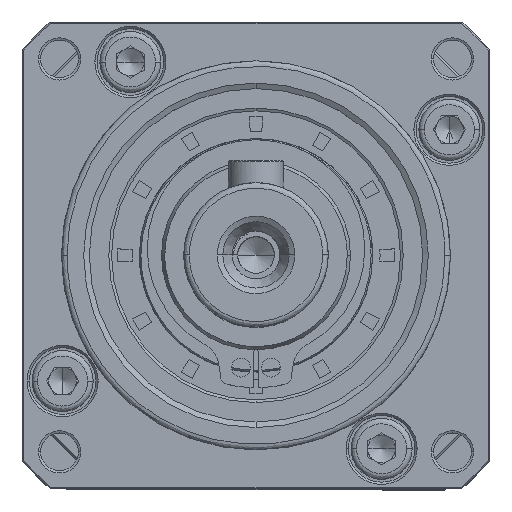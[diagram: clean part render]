
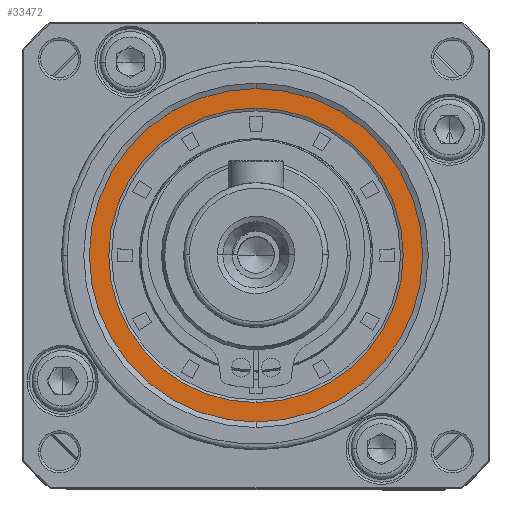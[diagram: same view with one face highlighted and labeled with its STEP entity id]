
A CAD part, top view. The second image highlights one B-rep face of the part: STEP entity #33472.
In plain terms, the highlighted planar face has unit normal (0, 0, 1).
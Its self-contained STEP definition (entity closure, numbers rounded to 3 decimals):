
#2161 = DIRECTION ( 'NONE',  ( 1., 0., 0. ) ) ;
#12160 = DIRECTION ( 'NONE',  ( 0., 0., -1. ) ) ;
#12248 = ORIENTED_EDGE ( 'NONE', *, *, #82426, .T. ) ;
#12524 = CARTESIAN_POINT ( 'NONE',  ( -18.534, 15.518, 63.002 ) ) ;
#13530 = CARTESIAN_POINT ( 'NONE',  ( -18.534, 2.268, 63.002 ) ) ;
#15847 = EDGE_CURVE ( 'NONE', #68646, #84789, #59821, .T. ) ;
#19182 = EDGE_CURVE ( 'NONE', #30770, #49644, #29335, .T. ) ;
#20208 = DIRECTION ( 'NONE',  ( 1., 0., 0. ) ) ;
#23613 = CARTESIAN_POINT ( 'NONE',  ( -18.534, 2.268, 63.002 ) ) ;
#23635 = ORIENTED_EDGE ( 'NONE', *, *, #15847, .T. ) ;
#25253 = ORIENTED_EDGE ( 'NONE', *, *, #72418, .T. ) ;
#29037 = AXIS2_PLACEMENT_3D ( 'NONE', #81522, #41897, #2161 ) ;
#29335 = CIRCLE ( 'NONE', #39303, 15. ) ;
#30270 = FACE_BOUND ( 'NONE', #61180, .T. ) ;
#30276 = DIRECTION ( 'NONE',  ( 0., -1., 0. ) ) ;
#30770 = VERTEX_POINT ( 'NONE', #84716 ) ;
#33472 = ADVANCED_FACE ( 'NONE', ( #65424, #30270 ), #81228, .T. ) ;
#33996 = CARTESIAN_POINT ( 'NONE',  ( -18.534, -10.982, 63.002 ) ) ;
#36371 = AXIS2_PLACEMENT_3D ( 'NONE', #23613, #69886, #30276 ) ;
#36974 = CIRCLE ( 'NONE', #69255, 15. ) ;
#39287 = DIRECTION ( 'NONE',  ( 0., 0., 1. ) ) ;
#39303 = AXIS2_PLACEMENT_3D ( 'NONE', #78859, #39287, #85523 ) ;
#41897 = DIRECTION ( 'NONE',  ( 0., 0., 1. ) ) ;
#49644 = VERTEX_POINT ( 'NONE', #77111 ) ;
#51848 = CARTESIAN_POINT ( 'NONE',  ( -18.534, 2.268, 63.002 ) ) ;
#58502 = DIRECTION ( 'NONE',  ( 0., -1., 0. ) ) ;
#59821 = CIRCLE ( 'NONE', #36371, 13.25 ) ;
#59842 = DIRECTION ( 'NONE',  ( 0., 0., 1. ) ) ;
#61180 = EDGE_LOOP ( 'NONE', ( #25253, #23635 ) ) ;
#65336 = CIRCLE ( 'NONE', #77128, 13.25 ) ;
#65424 = FACE_OUTER_BOUND ( 'NONE', #70790, .T. ) ;
#68646 = VERTEX_POINT ( 'NONE', #12524 ) ;
#69255 = AXIS2_PLACEMENT_3D ( 'NONE', #13530, #59842, #20208 ) ;
#69886 = DIRECTION ( 'NONE',  ( 0., 0., -1. ) ) ;
#70790 = EDGE_LOOP ( 'NONE', ( #74554, #12248 ) ) ;
#72418 = EDGE_CURVE ( 'NONE', #84789, #68646, #65336, .T. ) ;
#74554 = ORIENTED_EDGE ( 'NONE', *, *, #19182, .T. ) ;
#77111 = CARTESIAN_POINT ( 'NONE',  ( -33.534, 2.268, 63.002 ) ) ;
#77128 = AXIS2_PLACEMENT_3D ( 'NONE', #51848, #12160, #58502 ) ;
#78859 = CARTESIAN_POINT ( 'NONE',  ( -18.534, 2.268, 63.002 ) ) ;
#81228 = PLANE ( 'NONE',  #29037 ) ;
#81522 = CARTESIAN_POINT ( 'NONE',  ( -18.534, 2.268, 63.002 ) ) ;
#82426 = EDGE_CURVE ( 'NONE', #49644, #30770, #36974, .T. ) ;
#84716 = CARTESIAN_POINT ( 'NONE',  ( -3.534, 2.268, 63.002 ) ) ;
#84789 = VERTEX_POINT ( 'NONE', #33996 ) ;
#85523 = DIRECTION ( 'NONE',  ( 1., 0., 0. ) ) ;
